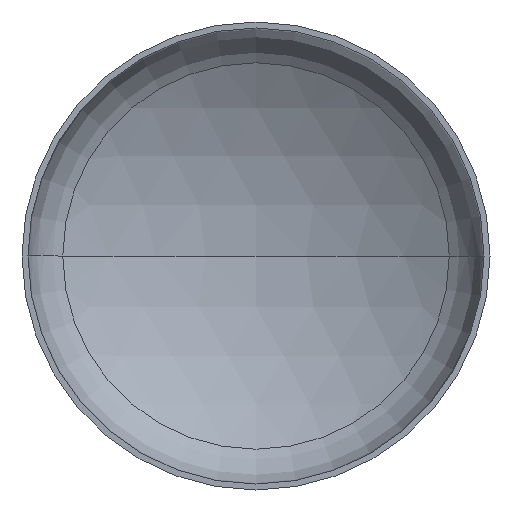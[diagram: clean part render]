
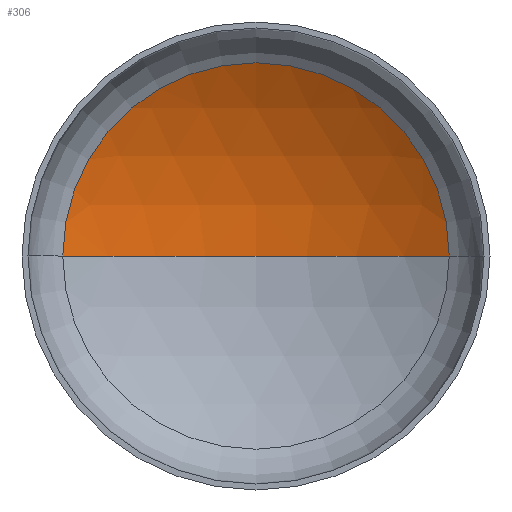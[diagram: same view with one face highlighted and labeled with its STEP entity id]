
A CAD part, front view. The second image highlights one B-rep face of the part: STEP entity #306.
In plain terms, the highlighted spherical face has radius 6400 mm.
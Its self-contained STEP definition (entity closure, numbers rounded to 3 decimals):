
#3 = DIRECTION ( 'NONE',  ( -1., 0., 0. ) ) ;
#14 = AXIS2_PLACEMENT_3D ( 'NONE', #245, #166, #397 ) ;
#30 = VERTEX_POINT ( 'NONE', #292 ) ;
#70 = AXIS2_PLACEMENT_3D ( 'NONE', #199, #370, #192 ) ;
#80 = CIRCLE ( 'NONE', #87, 3302.747 ) ;
#83 = AXIS2_PLACEMENT_3D ( 'NONE', #331, #351, #3 ) ;
#85 = ORIENTED_EDGE ( 'NONE', *, *, #153, .T. ) ;
#87 = AXIS2_PLACEMENT_3D ( 'NONE', #198, #396, #271 ) ;
#97 = ORIENTED_EDGE ( 'NONE', *, *, #154, .T. ) ;
#109 = EDGE_LOOP ( 'NONE', ( #136, #97, #85 ) ) ;
#136 = ORIENTED_EDGE ( 'NONE', *, *, #158, .F. ) ;
#153 = EDGE_CURVE ( 'NONE', #30, #164, #80, .T. ) ;
#154 = EDGE_CURVE ( 'NONE', #234, #30, #320, .T. ) ;
#158 = EDGE_CURVE ( 'NONE', #234, #164, #369, .T. ) ;
#164 = VERTEX_POINT ( 'NONE', #173 ) ;
#166 = DIRECTION ( 'NONE',  ( 0., 0., -1. ) ) ;
#169 = SPHERICAL_SURFACE ( 'NONE', #14, 6400. ) ;
#173 = CARTESIAN_POINT ( 'NONE',  ( -3302.747, 1128.564, 0. ) ) ;
#181 = FACE_OUTER_BOUND ( 'NONE', #109, .T. ) ;
#189 = CARTESIAN_POINT ( 'NONE',  ( 0., 2046.606, 0. ) ) ;
#192 = DIRECTION ( 'NONE',  ( 1., 0., 0. ) ) ;
#198 = CARTESIAN_POINT ( 'NONE',  ( 0., 1128.564, 0. ) ) ;
#199 = CARTESIAN_POINT ( 'NONE',  ( 0., -4353.394, 0. ) ) ;
#234 = VERTEX_POINT ( 'NONE', #189 ) ;
#245 = CARTESIAN_POINT ( 'NONE',  ( 0., -4353.394, 0. ) ) ;
#271 = DIRECTION ( 'NONE',  ( 1., 0., 0. ) ) ;
#292 = CARTESIAN_POINT ( 'NONE',  ( 3302.747, 1128.564, 0. ) ) ;
#306 = ADVANCED_FACE ( 'NONE', ( #181 ), #169, .F. ) ;
#320 = CIRCLE ( 'NONE', #83, 6400. ) ;
#331 = CARTESIAN_POINT ( 'NONE',  ( 0., -4353.394, 0. ) ) ;
#351 = DIRECTION ( 'NONE',  ( 0., 0., -1. ) ) ;
#369 = CIRCLE ( 'NONE', #70, 6400. ) ;
#370 = DIRECTION ( 'NONE',  ( 0., 0., 1. ) ) ;
#396 = DIRECTION ( 'NONE',  ( 0., -1., 0. ) ) ;
#397 = DIRECTION ( 'NONE',  ( -1., 0., 0. ) ) ;
